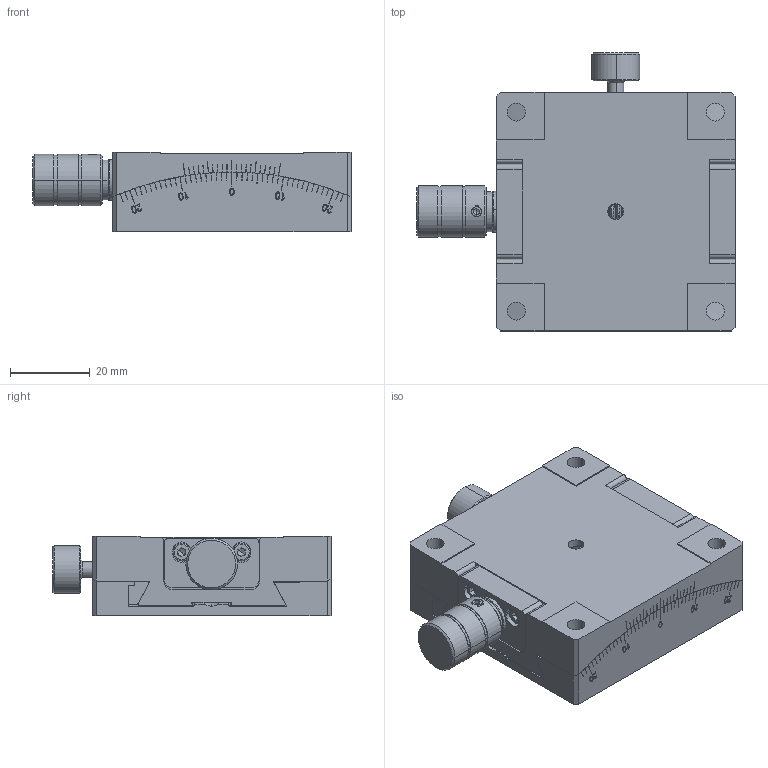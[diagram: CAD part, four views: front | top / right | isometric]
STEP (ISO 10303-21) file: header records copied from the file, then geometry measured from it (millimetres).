
FILE_DESCRIPTION (( 'STEP AP203' ), '1' );
FILE_NAME ('BFSG60-60.STEP', '2024-07-30T02:25:11', ( '微软用户' ), ( '微软中国' ), 'SwSTEP 2.0', 'SolidWorks 2024', '' );
FILE_SCHEMA (( 'CONFIG_CONTROL_DESIGN' ));
Products named in the file (1): BFSG60-60
Bounding box: 80 x 69.89 x 20 mm (x, y, z)
Volume: 68829.2 mm3; surface area: 33034.7 mm2
Topology: 16 solids, 16 shells, 833 faces, 2228 edges, 1446 vertices
Faces by surface type: plane 482, cylinder 197, cone 77, torus 40, bspline 37
Entity records: 35499 total; most frequent: CARTESIAN_POINT 14605, ORIENTED_EDGE 4376, DIRECTION 4254, EDGE_CURVE 2188, VERTEX_POINT 1446, AXIS2_PLACEMENT_3D 1427, VECTOR 1400, LINE 1400
